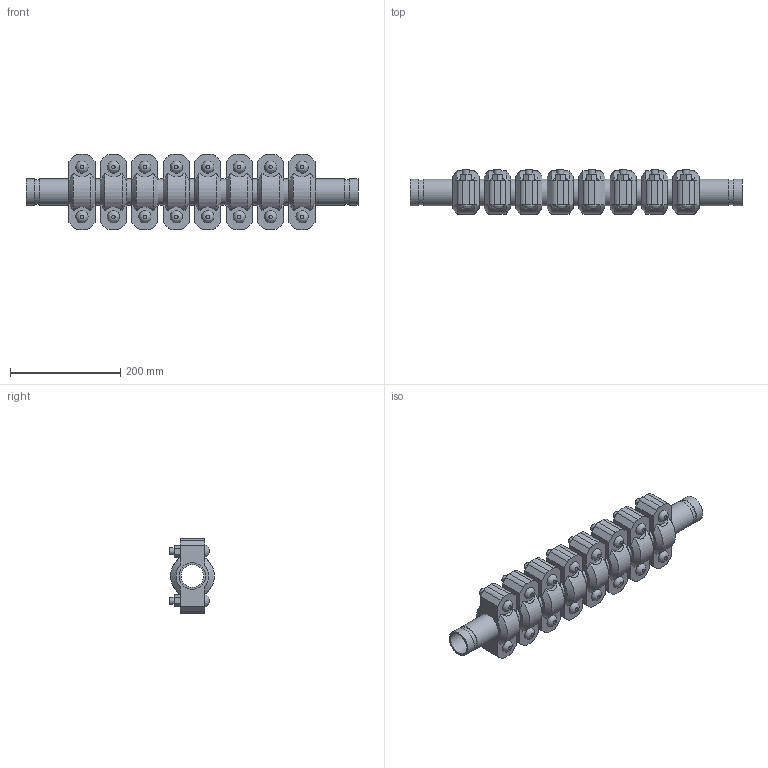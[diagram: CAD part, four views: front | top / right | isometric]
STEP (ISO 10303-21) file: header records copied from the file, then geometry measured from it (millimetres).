
FILE_DESCRIPTION(/* description */ ('VIC EXPANSION JOINT 8 COUPLINGS COMPRESSED STYLE 155 (OGS)','CAx-IF Rec.Pracs.---Representation and Presentation of Product Manufacturing Information (PMI)---4.0---2014-10-13'),/* implementation_level */ '2;1');
FILE_NAME(/* name */ 'C:\Users\kkamble\AppData\Roaming\Autodesk\ApplicationPlugins\Victaulic.Temp\A709\Victaulic_IPS_Expansion Joint_Compressed_8 Couplings_Style 155 (OGS)_1.5 (40).stp',/* time_stamp */ '2021-06-27T00:35:48+02:00',/* author */ ('kkamble'),/* organization */ ('Victaulic'),/* preprocessor_version */ 'ST-DEVELOPER v17.2',/* originating_system */ 'Autodesk Inventor 2019',/* authorisation */ '');
FILE_SCHEMA (('AP242_MANAGED_MODEL_BASED_3D_ENGINEERING_MIM_LF { 1 0 10303 442 1 1 4 }'));
Length unit declared in the file: inch
Products named in the file (4): 155-01.5; Nipple-01.5; Nipple-01.5_1; 077-01.5
Assembly tree (17 placements, depth 2):
  155-01.5
    Nipple-01.5  x2
    Nipple-01.5_1  x7
    077-01.5  x8
Bounding box: 603.25 x 81.03 x 136.65 mm (x, y, z)
Volume: 2383481.8 mm3; surface area: 542846.7 mm2
Topology: 17 solids, 33 shells, 564 faces, 1382 edges, 968 vertices
Faces by surface type: plane 326, cylinder 190, cone 32, bspline 16
Full cylindrical faces by diameter (mm): 12.7 x32, 14.605 x16, 40.894 x9, 45.085 x18, 48.26 x35
Entity records: 2971 total; most frequent: CARTESIAN_POINT 595, DIRECTION 479, ORIENTED_EDGE 398, EDGE_CURVE 199, AXIS2_PLACEMENT_3D 192, VERTEX_POINT 142, EDGE_LOOP 105, LINE 95
